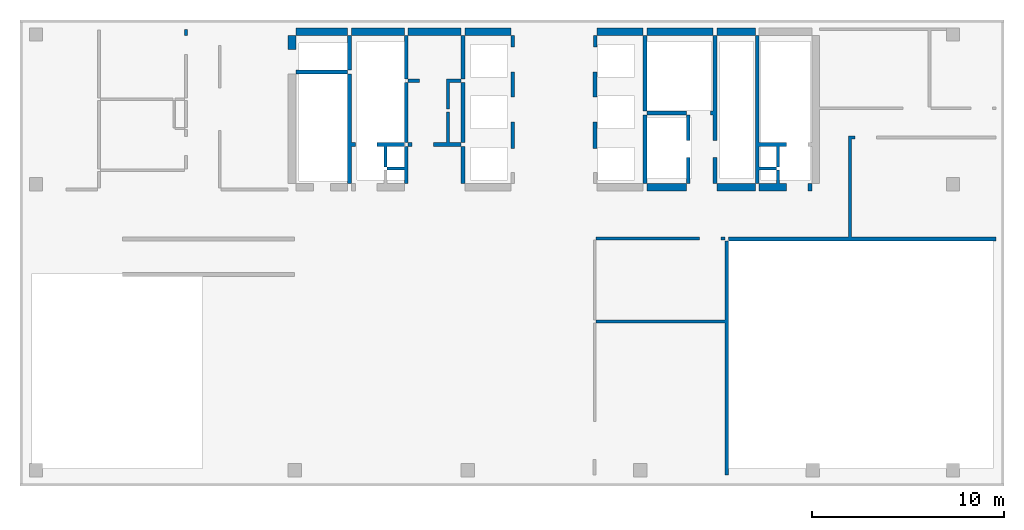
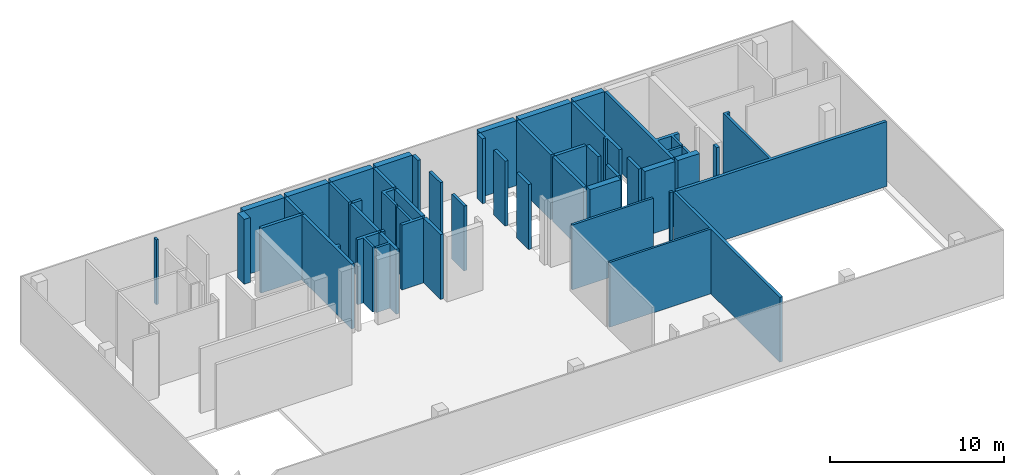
# One storey, part 2 of 4: 45 walls.
"""IFC4 building model written with IfcOpenShell, lengths in millimetres."""

from ifc_helpers import new_model, si_unit, frame, origin, place, context, project, spatial, triangles, element, save


model = new_model("IFC4")

# Units and contexts
model_context = context("Model", 3, precision=0.001, world=origin())
ifc_project = project(units=[si_unit("LENGTHUNIT", "METRE", prefix="MILLI"), si_unit("AREAUNIT", "SQUARE_METRE"), si_unit("VOLUMEUNIT", "CUBIC_METRE")], contexts=[model_context])

# Site, building, storey
site_placement = place(None, origin())
site = spatial("IfcSite", under=ifc_project, at=site_placement, Name="Site", CompositionType="ELEMENT")
building_placement = place(site_placement, origin())
building = spatial("IfcBuilding", under=site, at=building_placement, Name="INNOCEAN", CompositionType="ELEMENT")
storey_placement = place(building_placement, frame((0.0, 0.0, 20600.0)))
storey = spatial("IfcBuildingStorey", under=building, at=storey_placement, Name="F05", CompositionType="ELEMENT", Elevation=20600.0)

# Walls
wall_1_placement = place(storey_placement, origin())
element("IfcWall", 1, at=wall_1_placement, inside=storey, Name="F05_Walls_F05_010", context=model_context, shape_type="Tessellation", body=[
    triangles([(16429.3, 23019.0, 0.0), (16226.2, 23019.0, 0.0), (16226.2, 23019.0, 4550.0), (16429.3, 23019.0, 4550.0), (16429.3, 19449.9, 0.0), (16429.3, 19449.9, 4550.0), (16632.4, 19449.9, 0.0), (16632.4, 19449.9, 4550.0), (16632.4, 19246.7, 0.0), (16632.4, 19246.7, 4550.0), (16429.3, 19246.7, 0.0), (16429.3, 19246.7, 4550.0), (16429.3, 17316.1, 0.0), (16429.3, 17316.1, 4550.0), (16226.2, 17316.1, 0.0), (16226.2, 17316.1, 4550.0), (16226.2, 19246.7, 0.0), (16226.2, 19246.7, 4550.0), (16226.2, 19449.9, 0.0), (16226.2, 19449.9, 4550.0)], [[1, 2, 3], [1, 3, 4], [5, 1, 4], [5, 4, 6], [7, 5, 6], [7, 6, 8], [9, 7, 8], [9, 8, 10], [11, 9, 10], [11, 10, 12], [13, 11, 12], [13, 12, 14], [15, 13, 14], [15, 14, 16], [17, 15, 16], [17, 16, 18], [19, 17, 18], [19, 18, 20], [2, 19, 20], [2, 20, 3], [17, 11, 13], [17, 13, 15], [5, 7, 9], [5, 9, 11], [19, 5, 11], [19, 11, 17], [1, 5, 19], [2, 1, 19], [12, 18, 14], [14, 18, 16], [8, 6, 10], [10, 6, 12], [6, 20, 12], [12, 20, 18], [6, 4, 20], [4, 3, 20]], closed=True),
])
wall_2_placement = place(storey_placement, origin())
element("IfcWall", 2, at=wall_2_placement, inside=storey, Name="F05_Walls_F05_022", context=model_context, shape_type="Tessellation", body=[
    triangles([(16226.2, 23019.0, 0.0), (16226.2, 23222.2, 0.0), (16226.2, 23222.2, 4550.0), (16226.2, 23019.0, 4550.0), (13535.2, 23019.0, 0.0), (13535.2, 23019.0, 4550.0), (13535.2, 23222.2, 0.0), (13535.2, 23222.2, 4550.0)], [[1, 2, 3], [1, 3, 4], [5, 1, 4], [5, 4, 6], [7, 5, 6], [7, 6, 8], [2, 7, 8], [2, 8, 3], [7, 2, 1], [7, 1, 5], [3, 8, 4], [4, 8, 6]], closed=True),
])
wall_3_placement = place(storey_placement, origin())
element("IfcWall", 3, at=wall_3_placement, inside=storey, Name="F05_Walls_F05_025", context=model_context, shape_type="Tessellation", body=[
    triangles([(16429.3, 23222.2, 0.0), (16429.3, 25025.8, 0.0), (16429.3, 25025.8, 4550.0), (16429.3, 23222.2, 4550.0), (16226.2, 23222.2, 0.0), (16226.2, 23222.2, 4550.0), (16226.2, 25025.8, 0.0), (16226.2, 25025.8, 4550.0)], [[1, 2, 3], [1, 3, 4], [5, 1, 4], [5, 4, 6], [7, 5, 6], [7, 6, 8], [2, 7, 8], [2, 8, 3], [7, 2, 1], [7, 1, 5], [3, 8, 4], [4, 8, 6]], closed=True),
])
wall_4_placement = place(storey_placement, origin())
element("IfcWall", 4, at=wall_4_placement, inside=storey, Name="F05_Walls_F05_026", context=model_context, shape_type="Tessellation", body=[
    triangles([(13535.2, 24276.4, 0.0), (13535.2, 25025.8, 0.0), (13535.2, 25025.8, 4550.0), (13535.2, 24276.4, 4550.0), (13129.0, 24276.4, 0.0), (13129.0, 24276.4, 4550.0), (13129.0, 25025.8, 0.0), (13129.0, 25025.8, 4550.0)], [[1, 2, 3], [1, 3, 4], [5, 1, 4], [5, 4, 6], [7, 5, 6], [7, 6, 8], [2, 7, 8], [2, 8, 3], [2, 1, 5], [7, 2, 5], [4, 3, 6], [3, 8, 6]], closed=True),
])
wall_5_placement = place(storey_placement, origin())
element("IfcWall", 5, at=wall_5_placement, inside=storey, Name="F05_Walls_F05_027", context=model_context, shape_type="Tessellation", body=[
    triangles([(7734.4, 25317.9, 0.0), (7734.4, 25025.8, 0.0), (7734.4, 25025.8, 4550.0), (7734.4, 25317.9, 4550.0), (7735.0, 25317.9, 0.0), (7735.0, 25317.9, 4550.0), (7735.0, 25320.0, 0.0), (7735.0, 25320.0, 4550.0), (7885.0, 25320.0, 0.0), (7885.0, 25320.0, 4550.0), (7885.0, 25317.9, 0.0), (7885.0, 25317.9, 4550.0), (7886.7, 25317.9, 0.0), (7886.7, 25317.9, 4550.0), (7886.7, 25025.8, 0.0), (7886.7, 25025.8, 4550.0), (7885.0, 25025.8, 0.0), (7885.0, 25025.8, 4550.0), (7885.0, 25025.0, 0.0), (7885.0, 25025.0, 4550.0), (7735.0, 25025.0, 0.0), (7735.0, 25025.0, 4550.0), (7735.0, 25025.8, 0.0), (7735.0, 25025.8, 4550.0)], [[1, 2, 3], [1, 3, 4], [5, 1, 4], [5, 4, 6], [7, 5, 6], [7, 6, 8], [9, 7, 8], [9, 8, 10], [11, 9, 10], [11, 10, 12], [13, 11, 12], [13, 12, 14], [15, 13, 14], [15, 14, 16], [17, 15, 16], [17, 16, 18], [19, 17, 18], [19, 18, 20], [21, 19, 20], [21, 20, 22], [23, 21, 22], [23, 22, 24], [2, 23, 24], [2, 24, 3], [23, 17, 19], [23, 19, 21], [11, 13, 15], [11, 15, 17], [11, 17, 23], [5, 23, 2], [5, 11, 23], [1, 5, 2], [7, 9, 11], [7, 11, 5], [18, 24, 20], [20, 24, 22], [14, 12, 16], [16, 12, 18], [18, 12, 24], [24, 6, 3], [12, 6, 24], [6, 4, 3], [10, 8, 12], [12, 8, 6]], closed=True),
])
wall_6_placement = place(storey_placement, origin())
element("IfcWall", 6, at=wall_6_placement, inside=storey, Name="F05_Walls_F05_028", context=model_context, shape_type="Tessellation", body=[
    triangles([(16226.2, 25025.8, 0.0), (16226.2, 25419.5, 0.0), (16226.2, 25419.5, 4550.0), (16226.2, 25025.8, 4550.0), (13535.2, 25025.8, 0.0), (13535.2, 25025.8, 4550.0), (13535.2, 25419.5, 0.0), (13535.2, 25419.5, 4550.0)], [[1, 2, 3], [1, 3, 4], [5, 1, 4], [5, 4, 6], [7, 5, 6], [7, 6, 8], [2, 7, 8], [2, 8, 3], [5, 2, 1], [7, 2, 5], [3, 6, 4], [3, 8, 6]], closed=True),
])
wall_7_placement = place(storey_placement, origin())
element("IfcWall", 7, at=wall_7_placement, inside=storey, Name="F05_Walls_F05_034", context=model_context, shape_type="Tessellation", body=[
    triangles([(18282.5, 18014.7, 0.0), (19183.7, 18014.7, 0.0), (19183.7, 18014.7, 4550.0), (18282.5, 18014.7, 4550.0), (18282.5, 18167.1, 0.0), (18282.5, 18167.1, 4550.0), (19183.7, 18167.1, 0.0), (19183.7, 18167.1, 4550.0), (19183.7, 19246.7, 0.0), (19183.7, 19246.7, 4550.0), (19374.1, 19246.7, 4550.0), (19374.1, 19246.7, 0.0), (19374.1, 17316.1, 0.0), (19374.1, 17316.1, 4550.0), (19183.7, 17316.1, 4550.0), (19183.7, 17316.1, 0.0)], [[1, 2, 3], [1, 3, 4], [5, 1, 4], [5, 4, 6], [7, 5, 6], [7, 6, 8], [9, 7, 8], [9, 8, 10], [9, 10, 11], [12, 9, 11], [13, 12, 11], [13, 11, 14], [13, 14, 15], [16, 13, 15], [2, 16, 15], [2, 15, 3], [2, 13, 16], [7, 13, 2], [5, 2, 1], [5, 7, 2], [9, 12, 7], [12, 13, 7], [14, 3, 15], [14, 8, 3], [3, 6, 4], [8, 6, 3], [11, 10, 8], [14, 11, 8]], closed=True),
])
wall_8_placement = place(storey_placement, origin())
element("IfcWall", 8, at=wall_8_placement, inside=storey, Name="F05_Walls_F05_035", context=model_context, shape_type="Tessellation", body=[
    triangles([(22331.6, 17316.1, 0.0), (22331.6, 19246.7, 0.0), (22331.6, 19246.7, 4550.0), (22331.6, 17316.1, 4550.0), (22128.5, 17316.1, 0.0), (22128.5, 17316.1, 4550.0), (22128.5, 19246.7, 0.0), (22128.5, 19246.7, 4550.0)], [[1, 2, 3], [1, 3, 4], [5, 1, 4], [5, 4, 6], [7, 5, 6], [7, 6, 8], [2, 7, 8], [2, 8, 3], [7, 2, 1], [7, 1, 5], [3, 8, 4], [4, 8, 6]], closed=True),
])
wall_9_placement = place(storey_placement, origin())
element("IfcWall", 9, at=wall_9_placement, inside=storey, Name="F05_Walls_F05_036", context=model_context, shape_type="Tessellation", body=[
    triangles([(18282.5, 19246.7, 0.0), (19183.7, 19246.7, 0.0), (19183.7, 19246.7, 4550.0), (18282.5, 19246.7, 4550.0), (18282.5, 18167.1, 0.0), (18282.5, 18167.1, 4550.0), (18130.2, 18167.1, 0.0), (18130.2, 18167.1, 4550.0), (18130.2, 19246.7, 0.0), (18130.2, 19246.7, 4550.0), (17749.4, 19246.7, 0.0), (17749.4, 19246.7, 4550.0), (17749.4, 19449.9, 0.0), (17749.4, 19449.9, 4550.0), (19183.7, 19449.9, 0.0), (19183.7, 19449.9, 4550.0)], [[1, 2, 3], [1, 3, 4], [5, 1, 4], [5, 4, 6], [7, 5, 6], [7, 6, 8], [9, 7, 8], [9, 8, 10], [11, 9, 10], [11, 10, 12], [13, 11, 12], [13, 12, 14], [15, 13, 14], [15, 14, 16], [2, 15, 16], [2, 16, 3], [1, 15, 2], [9, 1, 5], [9, 5, 7], [13, 9, 11], [13, 1, 9], [13, 15, 1], [16, 4, 3], [4, 10, 6], [6, 10, 8], [10, 14, 12], [4, 14, 10], [16, 14, 4]], closed=True),
])
wall_10_placement = place(storey_placement, origin())
element("IfcWall", 10, at=wall_10_placement, inside=storey, Name="F05_Walls_F05_037", context=model_context, shape_type="Tessellation", body=[
    triangles([(19577.2, 19449.9, 0.0), (19374.1, 19449.9, 0.0), (19374.1, 19449.9, 4550.0), (19577.2, 19449.9, 4550.0), (19577.2, 19246.7, 0.0), (19577.2, 19246.7, 4550.0), (19374.1, 19246.7, 0.0), (19374.1, 19246.7, 4550.0)], [[1, 2, 3], [1, 3, 4], [5, 1, 4], [5, 4, 6], [7, 5, 6], [7, 6, 8], [2, 7, 8], [2, 8, 3], [2, 1, 5], [2, 5, 7], [4, 3, 6], [6, 3, 8]], closed=True),
])
wall_11_placement = place(storey_placement, origin())
element("IfcWall", 11, at=wall_11_placement, inside=storey, Name="F05_Walls_F05_038", context=model_context, shape_type="Tessellation", body=[
    triangles([(22128.5, 19246.7, 0.0), (22128.5, 19449.9, 0.0), (22128.5, 19449.9, 4550.0), (22128.5, 19246.7, 4550.0), (20694.2, 19246.7, 0.0), (20694.2, 19246.7, 4550.0), (20694.2, 19449.9, 0.0), (20694.2, 19449.9, 4550.0), (21366.9, 19449.9, 0.0), (21366.9, 19449.9, 4550.0), (21366.9, 21024.9, 0.0), (21366.9, 21024.9, 4550.0), (21519.3, 21024.9, 0.0), (21519.3, 21024.9, 4550.0), (21519.3, 19449.9, 0.0), (21519.3, 19449.9, 4550.0)], [[1, 2, 3], [1, 3, 4], [5, 1, 4], [5, 4, 6], [7, 5, 6], [7, 6, 8], [9, 7, 8], [9, 8, 10], [11, 9, 10], [11, 10, 12], [13, 11, 12], [13, 12, 14], [15, 13, 14], [15, 14, 16], [2, 15, 16], [2, 16, 3], [15, 2, 1], [9, 15, 1], [5, 9, 1], [7, 9, 5], [11, 13, 15], [11, 15, 9], [3, 16, 4], [16, 10, 4], [10, 6, 4], [10, 8, 6], [14, 12, 16], [16, 12, 10]], closed=True),
])
wall_12_placement = place(storey_placement, origin())
element("IfcWall", 12, at=wall_12_placement, inside=storey, Name="F05_Walls_F05_039", context=model_context, shape_type="Tessellation", body=[
    triangles([(24730.0, 19120.0, 0.0), (24730.0, 19120.0, 4550.0), (24730.0, 20515.0, 4550.0), (24730.0, 20515.0, 0.0), (24730.6, 20515.0, 0.0), (24730.6, 20515.0, 4550.0), (24730.6, 20516.8, 0.0), (24730.6, 20516.8, 4550.0), (24921.0, 20516.8, 4550.0), (24921.0, 20516.8, 0.0), (24921.0, 19119.7, 0.0), (24921.0, 19119.7, 4550.0), (24730.6, 19119.7, 4550.0), (24730.6, 19119.7, 0.0), (24730.6, 19120.0, 0.0), (24730.6, 19120.0, 4550.0)], [[1, 2, 3], [4, 1, 3], [5, 4, 3], [5, 3, 6], [7, 5, 6], [7, 6, 8], [7, 8, 9], [10, 7, 9], [11, 10, 9], [11, 9, 12], [11, 12, 13], [14, 11, 13], [15, 14, 13], [15, 13, 16], [1, 15, 16], [1, 16, 2], [15, 11, 14], [5, 10, 11], [5, 11, 15], [4, 15, 1], [4, 5, 15], [7, 10, 5], [12, 16, 13], [9, 6, 12], [12, 6, 16], [16, 3, 2], [6, 3, 16], [9, 8, 6]], closed=True),
])
wall_13_placement = place(storey_placement, origin())
element("IfcWall", 13, at=wall_13_placement, inside=storey, Name="F05_Walls_F05_040", context=model_context, shape_type="Tessellation", body=[
    triangles([(22331.6, 19449.9, 0.0), (22331.6, 22574.4, 0.0), (22331.6, 22574.4, 4550.0), (22331.6, 19449.9, 4550.0), (22128.5, 19449.9, 0.0), (22128.5, 19449.9, 4550.0), (22128.5, 22574.4, 0.0), (22128.5, 22574.4, 4550.0)], [[1, 2, 3], [1, 3, 4], [5, 1, 4], [5, 4, 6], [7, 5, 6], [7, 6, 8], [2, 7, 8], [2, 8, 3], [2, 1, 5], [7, 2, 5], [4, 3, 6], [3, 8, 6]], closed=True),
])
wall_14_placement = place(storey_placement, origin())
element("IfcWall", 14, at=wall_14_placement, inside=storey, Name="F05_Walls_F05_041", context=model_context, shape_type="Tessellation", body=[
    triangles([(19374.1, 19449.9, 0.0), (19374.1, 22574.4, 0.0), (19374.1, 22574.4, 4550.0), (19374.1, 19449.9, 4550.0), (19183.7, 19449.9, 4550.0), (19183.7, 19449.9, 0.0), (19183.7, 22574.4, 0.0), (19183.7, 22574.4, 4550.0)], [[1, 2, 3], [1, 3, 4], [1, 4, 5], [6, 1, 5], [7, 6, 5], [7, 5, 8], [7, 8, 3], [2, 7, 3], [2, 1, 6], [7, 2, 6], [4, 3, 5], [3, 8, 5]], closed=True),
])
wall_15_placement = place(storey_placement, origin())
element("IfcWall", 15, at=wall_15_placement, inside=storey, Name="F05_Walls_F05_042", context=model_context, shape_type="Tessellation", body=[
    triangles([(22128.5, 22765.0, 0.0), (21366.9, 22765.0, 0.0), (21366.9, 22765.0, 4550.0), (22128.5, 22765.0, 4550.0), (22128.5, 22574.4, 0.0), (22128.5, 22574.4, 4550.0), (21519.3, 22574.4, 0.0), (21519.3, 22574.4, 4550.0), (21519.3, 21177.3, 4550.0), (21519.3, 21177.3, 0.0), (21366.9, 21177.3, 0.0), (21366.9, 21177.3, 4550.0), (21366.9, 22574.4, 4550.0), (21366.9, 22574.4, 0.0)], [[1, 2, 3], [1, 3, 4], [5, 1, 4], [5, 4, 6], [7, 5, 6], [7, 6, 8], [7, 8, 9], [10, 7, 9], [11, 10, 9], [11, 9, 12], [11, 12, 13], [14, 11, 13], [2, 14, 13], [2, 13, 3], [7, 1, 5], [14, 7, 10], [14, 10, 11], [2, 1, 7], [2, 7, 14], [4, 8, 6], [8, 13, 9], [9, 13, 12], [4, 3, 8], [8, 3, 13]], closed=True),
])
wall_16_placement = place(storey_placement, origin())
element("IfcWall", 16, at=wall_16_placement, inside=storey, Name="F05_Walls_F05_043", context=model_context, shape_type="Tessellation", body=[
    triangles([(24920.0, 21825.0, 0.0), (24920.0, 21825.1, 0.0), (24920.0, 21825.1, 4550.0), (24920.0, 21825.0, 4550.0), (24730.0, 21825.0, 0.0), (24730.0, 21825.0, 4550.0), (24730.0, 23120.0, 0.0), (24730.0, 23120.0, 4550.0), (24730.6, 23120.0, 0.0), (24730.6, 23120.0, 4550.0), (24730.6, 23120.6, 0.0), (24730.6, 23120.6, 4550.0), (24921.0, 23120.6, 4550.0), (24921.0, 23120.6, 0.0), (24921.0, 21825.1, 0.0), (24921.0, 21825.1, 4550.0)], [[1, 2, 3], [1, 3, 4], [5, 1, 4], [5, 4, 6], [7, 5, 6], [7, 6, 8], [9, 7, 8], [9, 8, 10], [11, 9, 10], [11, 10, 12], [11, 12, 13], [14, 11, 13], [15, 14, 13], [15, 13, 16], [2, 15, 16], [2, 16, 3], [5, 2, 1], [14, 15, 2], [9, 14, 2], [9, 2, 5], [7, 9, 5], [11, 14, 9], [3, 6, 4], [16, 13, 3], [13, 10, 3], [3, 10, 6], [10, 8, 6], [13, 12, 10]], closed=True),
])
wall_17_placement = place(storey_placement, origin())
element("IfcWall", 17, at=wall_17_placement, inside=storey, Name="F05_Walls_F05_044", context=model_context, shape_type="Tessellation", body=[
    triangles([(19970.7, 22574.4, 0.0), (19970.7, 22765.0, 0.0), (19970.7, 22765.0, 4550.0), (19970.7, 22574.4, 4550.0), (19374.1, 22574.4, 0.0), (19374.1, 22574.4, 4550.0), (19374.1, 22765.0, 0.0), (19374.1, 22765.0, 4550.0)], [[1, 2, 3], [1, 3, 4], [5, 1, 4], [5, 4, 6], [7, 5, 6], [7, 6, 8], [2, 7, 8], [2, 8, 3], [7, 2, 1], [7, 1, 5], [3, 8, 4], [4, 8, 6]], closed=True),
])
wall_18_placement = place(storey_placement, origin())
element("IfcWall", 18, at=wall_18_placement, inside=storey, Name="F05_Walls_F05_045", context=model_context, shape_type="Tessellation", body=[
    triangles([(22331.6, 22765.0, 0.0), (22331.6, 25025.8, 0.0), (22331.6, 25025.8, 4550.0), (22331.6, 22765.0, 4550.0), (22128.5, 22765.0, 0.0), (22128.5, 22765.0, 4550.0), (22128.5, 25025.8, 0.0), (22128.5, 25025.8, 4550.0)], [[1, 2, 3], [1, 3, 4], [5, 1, 4], [5, 4, 6], [7, 5, 6], [7, 6, 8], [2, 7, 8], [2, 8, 3], [7, 2, 1], [7, 1, 5], [3, 8, 4], [4, 8, 6]], closed=True),
])
wall_19_placement = place(storey_placement, origin())
element("IfcWall", 19, at=wall_19_placement, inside=storey, Name="F05_Walls_F05_046", context=model_context, shape_type="Tessellation", body=[
    triangles([(19374.1, 22765.0, 0.0), (19374.1, 25025.8, 0.0), (19374.1, 25025.8, 4550.0), (19374.1, 22765.0, 4550.0), (19183.7, 22765.0, 4550.0), (19183.7, 22765.0, 0.0), (19183.7, 25025.8, 0.0), (19183.7, 25025.8, 4550.0)], [[1, 2, 3], [1, 3, 4], [1, 4, 5], [6, 1, 5], [7, 6, 5], [7, 5, 8], [7, 8, 3], [2, 7, 3], [7, 2, 1], [7, 1, 6], [3, 8, 4], [4, 8, 5]], closed=True),
])
wall_20_placement = place(storey_placement, origin())
element("IfcWall", 20, at=wall_20_placement, inside=storey, Name="F05_Walls_F05_047", context=model_context, shape_type="Tessellation", body=[
    triangles([(24921.0, 24416.1, 0.0), (24921.0, 25025.8, 0.0), (24921.0, 25025.8, 4550.0), (24921.0, 24416.1, 4550.0), (24730.6, 24416.1, 4550.0), (24730.6, 24416.1, 0.0), (24730.6, 25025.8, 0.0), (24730.6, 25025.8, 4550.0)], [[1, 2, 3], [1, 3, 4], [1, 4, 5], [6, 1, 5], [7, 6, 5], [7, 5, 8], [7, 8, 3], [2, 7, 3], [7, 2, 1], [7, 1, 6], [3, 8, 4], [4, 8, 5]], closed=True),
])
wall_21_placement = place(storey_placement, origin())
element("IfcWall", 21, at=wall_21_placement, inside=storey, Name="F05_Walls_F05_048", context=model_context, shape_type="Tessellation", body=[
    triangles([(22128.5, 25025.8, 0.0), (22128.5, 25419.5, 0.0), (22128.5, 25419.5, 4550.0), (22128.5, 25025.8, 4550.0), (19374.1, 25025.8, 0.0), (19374.1, 25025.8, 4550.0), (19374.1, 25419.5, 0.0), (19374.1, 25419.5, 4550.0)], [[1, 2, 3], [1, 3, 4], [5, 1, 4], [5, 4, 6], [7, 5, 6], [7, 6, 8], [2, 7, 8], [2, 8, 3], [7, 2, 1], [7, 1, 5], [3, 8, 4], [4, 8, 6]], closed=True),
])
wall_22_placement = place(storey_placement, origin())
element("IfcWall", 22, at=wall_22_placement, inside=storey, Name="F05_Walls_F05_049", context=model_context, shape_type="Tessellation", body=[
    triangles([(24730.6, 25025.8, 0.0), (24730.6, 25419.5, 0.0), (24730.6, 25419.5, 4550.0), (24730.6, 25025.8, 4550.0), (22331.6, 25025.8, 4550.0), (22331.6, 25025.8, 0.0), (22331.6, 25419.5, 0.0), (22331.6, 25419.5, 4550.0)], [[1, 2, 3], [1, 3, 4], [1, 4, 5], [6, 1, 5], [7, 6, 5], [7, 5, 8], [7, 8, 3], [2, 7, 3], [7, 2, 1], [7, 1, 6], [3, 8, 4], [4, 8, 5]], closed=True),
])
wall_23_placement = place(storey_placement, origin())
element("IfcWall", 23, at=wall_23_placement, inside=storey, Name="F05_Walls_F05_050", context=model_context, shape_type="Tessellation", body=[
    triangles([(19183.7, 25025.8, 0.0), (19183.7, 25419.5, 0.0), (19183.7, 25419.5, 4550.0), (19183.7, 25025.8, 4550.0), (16429.3, 25025.8, 0.0), (16429.3, 25025.8, 4550.0), (16429.3, 25419.5, 0.0), (16429.3, 25419.5, 4550.0)], [[1, 2, 3], [1, 3, 4], [5, 1, 4], [5, 4, 6], [7, 5, 6], [7, 6, 8], [2, 7, 8], [2, 8, 3], [7, 2, 1], [7, 1, 5], [3, 8, 4], [4, 8, 6]], closed=True),
])
wall_24_placement = place(storey_placement, origin())
element("IfcWall", 24, at=wall_24_placement, inside=storey, Name="F05_Walls_F05_052", context=model_context, shape_type="Tessellation", body=[
    triangles([(36065.7, 10190.7, 0.0), (36065.7, 14318.6, 0.0), (36065.7, 14318.6, 4550.0), (36065.7, 10190.7, 4550.0), (36065.7, 2125.4, 4550.0), (36065.7, 2125.4, 0.0), (35875.3, 2125.4, 0.0), (35875.3, 2125.4, 4550.0), (35875.3, 10051.0, 0.0), (35875.3, 10051.0, 4550.0), (29173.3, 10051.0, 0.0), (29173.3, 10051.0, 4550.0), (29173.3, 10190.7, 0.0), (29173.3, 10190.7, 4550.0), (35875.3, 10190.7, 0.0), (35875.3, 10190.7, 4550.0), (35875.3, 14318.6, 0.0), (35875.3, 14318.6, 4550.0)], [[1, 2, 3], [1, 3, 4], [5, 1, 4], [6, 1, 5], [7, 6, 5], [7, 5, 8], [9, 7, 8], [9, 8, 10], [11, 9, 10], [11, 10, 12], [13, 11, 12], [13, 12, 14], [15, 13, 14], [15, 14, 16], [17, 15, 16], [17, 16, 18], [2, 17, 18], [2, 18, 3], [9, 1, 6], [9, 6, 7], [15, 1, 9], [17, 2, 1], [17, 1, 15], [11, 15, 9], [13, 15, 11], [4, 10, 5], [5, 10, 8], [4, 16, 10], [3, 18, 4], [4, 18, 16], [16, 12, 10], [16, 14, 12]], closed=True),
])
wall_25_placement = place(storey_placement, origin())
element("IfcWall", 25, at=wall_25_placement, inside=storey, Name="F05_Walls_F05_053", context=model_context, shape_type="Tessellation", body=[
    triangles([(35672.2, 14370.0, 0.0), (35672.2, 14369.4, 0.0), (35672.2, 14369.4, 4550.0), (35672.2, 14370.0, 4550.0), (35670.0, 14370.0, 4550.0), (35670.0, 14370.0, 0.0), (35670.0, 14520.0, 0.0), (35670.0, 14520.0, 4550.0), (35672.2, 14520.0, 4550.0), (35672.2, 14520.0, 0.0), (35672.2, 14521.8, 0.0), (35672.2, 14521.8, 4550.0), (35875.3, 14521.8, 4550.0), (35875.3, 14521.8, 0.0), (35875.3, 14369.4, 4550.0), (35875.3, 14369.4, 0.0)], [[1, 2, 3], [1, 3, 4], [1, 4, 5], [6, 1, 5], [7, 6, 5], [7, 5, 8], [7, 8, 9], [10, 7, 9], [11, 10, 9], [11, 9, 12], [11, 12, 13], [14, 11, 13], [14, 13, 15], [16, 14, 15], [16, 15, 3], [2, 16, 3], [1, 16, 2], [10, 14, 16], [10, 16, 1], [11, 14, 10], [7, 1, 6], [7, 10, 1], [15, 4, 3], [13, 9, 15], [15, 9, 4], [13, 12, 9], [4, 8, 5], [9, 8, 4]], closed=True),
])
wall_26_placement = place(storey_placement, origin())
element("IfcWall", 26, at=wall_26_placement, inside=storey, Name="F05_Walls_F05_054", context=model_context, shape_type="Tessellation", body=[
    triangles([(34567.9, 14521.8, 0.0), (34567.9, 14521.8, 4550.0), (34567.9, 14369.4, 4550.0), (34567.9, 14369.4, 0.0), (29173.3, 14369.4, 0.0), (29173.3, 14369.4, 4550.0), (29173.3, 14521.8, 4550.0), (29173.3, 14521.8, 0.0)], [[1, 2, 3], [4, 1, 3], [5, 4, 3], [5, 3, 6], [5, 6, 7], [8, 5, 7], [1, 8, 7], [1, 7, 2], [8, 1, 4], [8, 4, 5], [2, 7, 3], [3, 7, 6]], closed=True),
])
wall_27_placement = place(storey_placement, origin())
element("IfcWall", 27, at=wall_27_placement, inside=storey, Name="F05_Walls_F05_056", context=model_context, shape_type="Tessellation", body=[
    triangles([(33869.8, 16922.4, 0.0), (33869.8, 17316.1, 0.0), (33869.8, 17316.1, 4550.0), (33869.8, 16922.4, 4550.0), (31826.2, 16922.4, 0.0), (31826.2, 16922.4, 4550.0), (31826.2, 17316.1, 0.0), (31826.2, 17316.1, 4550.0)], [[1, 2, 3], [1, 3, 4], [5, 1, 4], [5, 4, 6], [7, 5, 6], [7, 6, 8], [2, 7, 8], [2, 8, 3], [7, 2, 1], [7, 1, 5], [3, 8, 4], [4, 8, 6]], closed=True),
])
wall_28_placement = place(storey_placement, origin())
element("IfcWall", 28, at=wall_28_placement, inside=storey, Name="F05_Walls_F05_057", context=model_context, shape_type="Tessellation", body=[
    triangles([(37474.6, 16922.4, 0.0), (37474.6, 17316.1, 0.0), (37474.6, 17316.1, 4550.0), (37474.6, 16922.4, 4550.0), (35469.1, 16922.4, 4550.0), (35469.1, 16922.4, 0.0), (35469.1, 17316.1, 0.0), (35469.1, 17316.1, 4550.0)], [[1, 2, 3], [1, 3, 4], [1, 4, 5], [6, 1, 5], [7, 6, 5], [7, 5, 8], [7, 8, 3], [2, 7, 3], [7, 2, 1], [7, 1, 6], [3, 8, 4], [4, 8, 5]], closed=True),
])
wall_29_placement = place(storey_placement, origin())
element("IfcWall", 29, at=wall_29_placement, inside=storey, Name="F05_Walls_F05_059", context=model_context, shape_type="Tessellation", body=[
    triangles([(34072.9, 17316.1, 0.0), (34072.9, 18649.7, 0.0), (34072.9, 18649.7, 4550.0), (34072.9, 17316.1, 4550.0), (33869.8, 17316.1, 0.0), (33869.8, 17316.1, 4550.0), (33869.8, 18649.7, 0.0), (33869.8, 18649.7, 4550.0)], [[1, 2, 3], [1, 3, 4], [5, 1, 4], [5, 4, 6], [7, 5, 6], [7, 6, 8], [2, 7, 8], [2, 8, 3], [7, 2, 1], [7, 1, 5], [3, 8, 4], [4, 8, 6]], closed=True),
])
wall_30_placement = place(storey_placement, origin())
element("IfcWall", 30, at=wall_30_placement, inside=storey, Name="F05_Walls_F05_060", context=model_context, shape_type="Tessellation", body=[
    triangles([(35469.1, 17316.1, 0.0), (35469.1, 18649.7, 0.0), (35469.1, 18649.7, 4550.0), (35469.1, 17316.1, 4550.0), (35266.0, 17316.1, 0.0), (35266.0, 17316.1, 4550.0), (35266.0, 18649.7, 0.0), (35266.0, 18649.7, 4550.0)], [[1, 2, 3], [1, 3, 4], [5, 1, 4], [5, 4, 6], [7, 5, 6], [7, 6, 8], [2, 7, 8], [2, 8, 3], [7, 2, 1], [7, 1, 5], [3, 8, 4], [4, 8, 6]], closed=True),
])
wall_31_placement = place(storey_placement, origin())
element("IfcWall", 31, at=wall_31_placement, inside=storey, Name="F05_Walls_F05_061", context=model_context, shape_type="Tessellation", body=[
    triangles([(37474.6, 19449.9, 0.0), (37474.6, 17316.1, 0.0), (37474.6, 17316.1, 4550.0), (37474.6, 19449.9, 4550.0), (37665.0, 17316.1, 0.0), (37665.0, 17316.1, 4550.0), (37665.0, 18014.7, 0.0), (37665.0, 18014.7, 4550.0), (38566.3, 18014.7, 0.0), (38566.3, 18014.7, 4550.0), (38566.3, 18167.1, 0.0), (38566.3, 18167.1, 4550.0), (38718.6, 18167.1, 0.0), (38718.6, 18167.1, 4550.0), (38718.6, 19245.0, 0.0), (38718.6, 19245.0, 4550.0), (38720.0, 19245.0, 0.0), (38720.0, 19245.0, 4550.0), (39100.0, 19245.0, 0.0), (39100.0, 19245.0, 4550.0), (39100.0, 19450.0, 0.0), (39100.0, 19450.0, 4550.0), (37665.0, 19450.0, 0.0), (37665.0, 19450.0, 4550.0), (37665.0, 25025.8, 0.0), (37665.0, 25025.8, 4550.0), (37474.6, 25025.8, 0.0), (37474.6, 25025.8, 4550.0), (37665.0, 18167.1, 0.0), (37665.0, 18167.1, 4550.0), (37665.0, 19245.0, 0.0), (37665.0, 19245.0, 4550.0), (38565.0, 19245.0, 0.0), (38565.0, 19245.0, 4550.0), (38566.3, 19245.0, 0.0), (38566.3, 19245.0, 4550.0)], [[1, 2, 3], [1, 3, 4], [5, 6, 3], [2, 5, 3], [5, 7, 8], [5, 8, 6], [9, 10, 8], [7, 9, 8], [9, 11, 12], [9, 12, 10], [11, 13, 14], [11, 14, 12], [13, 15, 16], [13, 16, 14], [15, 17, 18], [15, 18, 16], [17, 19, 20], [17, 20, 18], [19, 21, 22], [19, 22, 20], [23, 24, 22], [21, 23, 22], [23, 25, 26], [23, 26, 24], [27, 28, 26], [25, 27, 26], [27, 1, 4], [27, 4, 28], [29, 30, 12], [11, 29, 12], [29, 31, 32], [29, 32, 30], [31, 33, 34], [31, 34, 32], [33, 35, 36], [33, 36, 34], [35, 11, 12], [35, 12, 36], [7, 5, 2], [29, 11, 9], [29, 9, 7], [29, 7, 2], [17, 21, 19], [15, 21, 17], [35, 15, 13], [35, 13, 11], [35, 21, 15], [33, 21, 35], [23, 33, 31], [23, 21, 33], [1, 31, 29], [1, 29, 2], [1, 23, 31], [27, 25, 23], [27, 23, 1], [6, 8, 3], [12, 30, 10], [10, 30, 8], [8, 30, 3], [22, 18, 20], [22, 16, 18], [16, 36, 14], [14, 36, 12], [22, 36, 16], [22, 34, 36], [34, 24, 32], [22, 24, 34], [32, 4, 30], [30, 4, 3], [24, 4, 32], [26, 28, 24], [24, 28, 4]], closed=True),
])
wall_32_placement = place(storey_placement, origin())
element("IfcWall", 32, at=wall_32_placement, inside=storey, Name="F05_Walls_F05_062", context=model_context, shape_type="Tessellation", body=[
    triangles([(31826.2, 20872.5, 0.0), (31826.2, 20872.5, 4550.0), (31826.2, 17316.1, 4550.0), (31826.2, 17316.1, 0.0), (31623.1, 17316.1, 0.0), (31623.1, 17316.1, 4550.0), (31623.1, 20872.5, 4550.0), (31623.1, 20872.5, 0.0)], [[1, 2, 3], [4, 1, 3], [5, 4, 3], [5, 3, 6], [5, 6, 7], [8, 5, 7], [1, 8, 7], [1, 7, 2], [8, 1, 4], [8, 4, 5], [2, 7, 3], [3, 7, 6]], closed=True),
])
wall_33_placement = place(storey_placement, origin())
element("IfcWall", 33, at=wall_33_placement, inside=storey, Name="F05_Walls_F05_063", context=model_context, shape_type="Tessellation", body=[
    triangles([(29224.0, 19119.7, 0.0), (29224.0, 19120.0, 0.0), (29224.0, 19120.0, 4550.0), (29224.0, 19119.7, 4550.0), (29020.9, 19119.7, 0.0), (29020.9, 19119.7, 4550.0), (29020.9, 19120.0, 0.0), (29020.9, 19120.0, 4550.0), (29020.0, 19120.0, 4550.0), (29020.0, 19120.0, 0.0), (29020.0, 20515.0, 4550.0), (29020.0, 20515.0, 0.0), (29020.9, 20515.0, 4550.0), (29020.9, 20515.0, 0.0), (29020.9, 20516.8, 0.0), (29020.9, 20516.8, 4550.0), (29224.0, 20516.8, 0.0), (29224.0, 20516.8, 4550.0), (29224.0, 20515.0, 0.0), (29224.0, 20515.0, 4550.0), (29225.0, 20515.0, 0.0), (29225.0, 20515.0, 4550.0), (29225.0, 19120.0, 4550.0), (29225.0, 19120.0, 0.0)], [[1, 2, 3], [1, 3, 4], [5, 1, 4], [5, 4, 6], [7, 5, 6], [7, 6, 8], [7, 8, 9], [10, 7, 9], [10, 9, 11], [12, 10, 11], [12, 11, 13], [14, 12, 13], [15, 14, 13], [15, 13, 16], [17, 15, 16], [17, 16, 18], [19, 17, 18], [19, 18, 20], [21, 19, 20], [21, 20, 22], [21, 22, 23], [24, 21, 23], [2, 24, 23], [2, 23, 3], [7, 2, 1], [7, 1, 5], [19, 21, 24], [19, 24, 2], [19, 2, 7], [14, 19, 7], [12, 7, 10], [12, 14, 7], [15, 17, 19], [15, 19, 14], [3, 8, 4], [4, 8, 6], [22, 20, 23], [23, 20, 3], [3, 20, 8], [20, 13, 8], [8, 11, 9], [13, 11, 8], [18, 16, 20], [20, 16, 13]], closed=True),
])
wall_34_placement = place(storey_placement, origin())
element("IfcWall", 34, at=wall_34_placement, inside=storey, Name="F05_Walls_F05_064", context=model_context, shape_type="Tessellation", body=[
    triangles([(34072.9, 19551.5, 0.0), (34072.9, 20872.5, 0.0), (34072.9, 20872.5, 4550.0), (34072.9, 19551.5, 4550.0), (33869.8, 19551.5, 0.0), (33869.8, 19551.5, 4550.0), (33869.8, 20872.5, 0.0), (33869.8, 20872.5, 4550.0)], [[1, 2, 3], [1, 3, 4], [5, 1, 4], [5, 4, 6], [7, 5, 6], [7, 6, 8], [2, 7, 8], [2, 8, 3], [7, 2, 1], [7, 1, 5], [3, 8, 4], [4, 8, 6]], closed=True),
])
wall_35_placement = place(storey_placement, origin())
element("IfcWall", 35, at=wall_35_placement, inside=storey, Name="F05_Walls_F05_065", context=model_context, shape_type="Tessellation", body=[
    triangles([(35126.4, 21075.7, 0.0), (35126.4, 20872.5, 0.0), (35126.4, 20872.5, 4550.0), (35126.4, 21075.7, 4550.0), (35266.0, 21075.7, 0.0), (35266.0, 21075.7, 4550.0), (35266.0, 25025.8, 0.0), (35266.0, 25025.8, 4550.0), (35469.1, 25025.8, 0.0), (35469.1, 25025.8, 4550.0), (35469.1, 21075.7, 0.0), (35469.1, 21075.7, 4550.0), (35469.1, 20872.5, 0.0), (35469.1, 20872.5, 4550.0), (35469.1, 19551.5, 0.0), (35469.1, 19551.5, 4550.0), (35266.0, 19551.5, 0.0), (35266.0, 19551.5, 4550.0), (35266.0, 20872.5, 0.0), (35266.0, 20872.5, 4550.0)], [[1, 2, 3], [1, 3, 4], [5, 1, 4], [5, 4, 6], [7, 5, 6], [7, 6, 8], [9, 7, 8], [9, 8, 10], [11, 9, 10], [11, 10, 12], [13, 11, 12], [13, 12, 14], [15, 13, 14], [15, 14, 16], [17, 15, 16], [17, 16, 18], [19, 17, 18], [19, 18, 20], [2, 19, 20], [2, 20, 3], [19, 13, 15], [19, 15, 17], [11, 13, 19], [5, 11, 19], [1, 19, 2], [1, 5, 19], [7, 9, 11], [7, 11, 5], [14, 20, 16], [16, 20, 18], [14, 12, 20], [12, 6, 20], [20, 4, 3], [6, 4, 20], [10, 8, 12], [12, 8, 6]], closed=True),
])
wall_36_placement = place(storey_placement, origin())
element("IfcWall", 36, at=wall_36_placement, inside=storey, Name="F05_Walls_F05_066", context=model_context, shape_type="Tessellation", body=[
    triangles([(33869.8, 20872.5, 0.0), (33869.8, 21075.7, 0.0), (33869.8, 21075.7, 4550.0), (33869.8, 20872.5, 4550.0), (31826.2, 20872.5, 0.0), (31826.2, 20872.5, 4550.0), (31826.2, 21075.7, 0.0), (31826.2, 21075.7, 4550.0)], [[1, 2, 3], [1, 3, 4], [5, 1, 4], [5, 4, 6], [7, 5, 6], [7, 6, 8], [2, 7, 8], [2, 8, 3], [7, 2, 1], [7, 1, 5], [3, 8, 4], [4, 8, 6]], closed=True),
])
wall_37_placement = place(storey_placement, origin())
element("IfcWall", 37, at=wall_37_placement, inside=storey, Name="F05_Walls_F05_067", context=model_context, shape_type="Tessellation", body=[
    triangles([(29225.0, 21825.0, 0.0), (29225.0, 23120.0, 0.0), (29225.0, 23120.0, 4550.0), (29225.0, 21825.0, 4550.0), (29020.0, 21825.0, 0.0), (29020.0, 21825.0, 4550.0), (29020.0, 23120.0, 0.0), (29020.0, 23120.0, 4550.0), (29020.9, 23120.0, 4550.0), (29020.9, 23120.0, 0.0), (29020.9, 23120.6, 0.0), (29020.9, 23120.6, 4550.0), (29224.0, 23120.6, 0.0), (29224.0, 23120.6, 4550.0), (29224.0, 23120.0, 0.0), (29224.0, 23120.0, 4550.0)], [[1, 2, 3], [1, 3, 4], [5, 1, 4], [5, 4, 6], [7, 5, 6], [7, 6, 8], [7, 8, 9], [10, 7, 9], [11, 10, 9], [11, 9, 12], [13, 11, 12], [13, 12, 14], [15, 13, 14], [15, 14, 16], [2, 15, 16], [2, 16, 3], [15, 2, 1], [15, 1, 5], [10, 15, 5], [11, 13, 15], [11, 15, 10], [7, 10, 5], [3, 16, 4], [4, 16, 6], [16, 9, 6], [14, 12, 16], [16, 12, 9], [9, 8, 6]], closed=True),
])
wall_38_placement = place(storey_placement, origin())
element("IfcWall", 38, at=wall_38_placement, inside=storey, Name="F05_Walls_F05_068", context=model_context, shape_type="Tessellation", body=[
    triangles([(31826.2, 21075.7, 0.0), (31826.2, 25025.8, 0.0), (31826.2, 25025.8, 4550.0), (31826.2, 21075.7, 4550.0), (31623.1, 21075.7, 0.0), (31623.1, 21075.7, 4550.0), (31623.1, 25025.8, 0.0), (31623.1, 25025.8, 4550.0)], [[1, 2, 3], [1, 3, 4], [5, 1, 4], [5, 4, 6], [7, 5, 6], [7, 6, 8], [2, 7, 8], [2, 8, 3], [2, 1, 5], [7, 2, 5], [4, 3, 6], [3, 8, 6]], closed=True),
])
wall_39_placement = place(storey_placement, origin())
element("IfcWall", 39, at=wall_39_placement, inside=storey, Name="F05_Walls_F05_069", context=model_context, shape_type="Tessellation", body=[
    triangles([(29224.0, 24416.1, 0.0), (29224.0, 25025.8, 0.0), (29224.0, 25025.8, 4550.0), (29224.0, 24416.1, 4550.0), (29020.9, 24416.1, 0.0), (29020.9, 24416.1, 4550.0), (29020.9, 25025.8, 0.0), (29020.9, 25025.8, 4550.0)], [[1, 2, 3], [1, 3, 4], [5, 1, 4], [5, 4, 6], [7, 5, 6], [7, 6, 8], [2, 7, 8], [2, 8, 3], [7, 2, 1], [7, 1, 5], [3, 8, 4], [4, 8, 6]], closed=True),
])
wall_40_placement = place(storey_placement, origin())
element("IfcWall", 40, at=wall_40_placement, inside=storey, Name="F05_Walls_F05_070", context=model_context, shape_type="Tessellation", body=[
    triangles([(31623.1, 25025.8, 0.0), (31623.1, 25419.5, 0.0), (31623.1, 25419.5, 4550.0), (31623.1, 25025.8, 4550.0), (29224.0, 25025.8, 0.0), (29224.0, 25025.8, 4550.0), (29224.0, 25419.5, 0.0), (29224.0, 25419.5, 4550.0)], [[1, 2, 3], [1, 3, 4], [5, 1, 4], [5, 4, 6], [7, 5, 6], [7, 6, 8], [2, 7, 8], [2, 8, 3], [7, 2, 1], [7, 1, 5], [3, 8, 4], [4, 8, 6]], closed=True),
])
wall_41_placement = place(storey_placement, origin())
element("IfcWall", 41, at=wall_41_placement, inside=storey, Name="F05_Walls_F05_071", context=model_context, shape_type="Tessellation", body=[
    triangles([(35266.0, 25025.8, 0.0), (35266.0, 25419.5, 0.0), (35266.0, 25419.5, 4550.0), (35266.0, 25025.8, 4550.0), (31826.2, 25025.8, 0.0), (31826.2, 25025.8, 4550.0), (31826.2, 25419.5, 0.0), (31826.2, 25419.5, 4550.0)], [[1, 2, 3], [1, 3, 4], [5, 1, 4], [5, 4, 6], [7, 5, 6], [7, 6, 8], [2, 7, 8], [2, 8, 3], [7, 2, 1], [7, 1, 5], [3, 8, 4], [4, 8, 6]], closed=True),
])
wall_42_placement = place(storey_placement, origin())
element("IfcWall", 42, at=wall_42_placement, inside=storey, Name="F05_Walls_F05_072", context=model_context, shape_type="Tessellation", body=[
    triangles([(37474.6, 25025.8, 0.0), (37474.6, 25419.5, 0.0), (37474.6, 25419.5, 4550.0), (37474.6, 25025.8, 4550.0), (35469.1, 25025.8, 4550.0), (35469.1, 25025.8, 0.0), (35469.1, 25419.5, 0.0), (35469.1, 25419.5, 4550.0)], [[1, 2, 3], [1, 3, 4], [1, 4, 5], [6, 1, 5], [7, 6, 5], [7, 5, 8], [7, 8, 3], [2, 7, 3], [7, 2, 1], [7, 1, 6], [3, 8, 4], [4, 8, 5]], closed=True),
])
wall_43_placement = place(storey_placement, origin())
element("IfcWall", 43, at=wall_43_placement, inside=storey, Name="F05_Walls_F05_073", context=model_context, shape_type="Tessellation", body=[
    triangles([(42666.2, 19615.0, 0.0), (42666.2, 19767.5, 0.0), (42666.2, 19767.5, 4550.0), (42666.2, 19615.0, 4550.0), (42665.0, 19615.0, 4550.0), (42665.0, 19615.0, 0.0), (42465.0, 19615.0, 4550.0), (42465.0, 19615.0, 0.0), (42465.0, 14521.8, 4550.0), (42465.0, 14521.8, 0.0), (50015.5, 14521.8, 4550.0), (50015.5, 14521.8, 0.0), (50015.5, 14318.6, 0.0), (50015.5, 14318.6, 4550.0), (36065.7, 14318.6, 4550.0), (36065.7, 14318.6, 0.0), (36065.7, 14521.8, 0.0), (36065.7, 14521.8, 4550.0), (42310.0, 14521.8, 0.0), (42310.0, 14521.8, 4550.0), (42310.0, 19770.0, 0.0), (42310.0, 19770.0, 4550.0), (42665.0, 19770.0, 0.0), (42665.0, 19770.0, 4550.0), (42665.0, 19767.5, 0.0), (42665.0, 19767.5, 4550.0)], [[1, 2, 3], [1, 3, 4], [1, 4, 5], [6, 1, 5], [6, 5, 7], [8, 6, 7], [9, 8, 7], [10, 8, 9], [11, 10, 9], [12, 10, 11], [13, 12, 11], [13, 11, 14], [15, 13, 14], [16, 13, 15], [17, 16, 15], [17, 15, 18], [19, 17, 18], [19, 18, 20], [21, 19, 20], [21, 20, 22], [23, 21, 22], [23, 22, 24], [25, 23, 24], [25, 24, 26], [25, 26, 3], [2, 25, 3], [10, 12, 13], [25, 2, 1], [25, 1, 6], [8, 23, 25], [8, 10, 19], [8, 25, 6], [21, 23, 8], [21, 8, 19], [17, 19, 16], [13, 16, 19], [13, 19, 10], [11, 9, 14], [3, 26, 4], [4, 26, 5], [24, 7, 26], [9, 7, 20], [26, 7, 5], [24, 22, 7], [7, 22, 20], [20, 18, 15], [15, 14, 20], [20, 14, 9]], closed=True),
])
wall_44_placement = place(storey_placement, origin())
element("IfcWall", 44, at=wall_44_placement, inside=storey, Name="F05_Walls_F05_074", context=model_context, shape_type="Tessellation", body=[
    triangles([(38566.3, 18014.7, 0.0), (38566.3, 17316.1, 0.0), (38566.3, 17316.1, 4550.0), (38566.3, 18014.7, 4550.0), (38718.6, 18014.7, 0.0), (38718.6, 18014.7, 4550.0), (38718.6, 17316.1, 0.0), (38718.6, 17316.1, 4550.0), (39099.4, 17316.1, 0.0), (39099.4, 17316.1, 4550.0), (39099.4, 16922.4, 0.0), (39099.4, 16922.4, 4550.0), (37665.0, 16922.4, 0.0), (37665.0, 16922.4, 4550.0), (37665.0, 17316.1, 0.0), (37665.0, 17316.1, 4550.0)], [[1, 2, 3], [1, 3, 4], [5, 1, 4], [5, 4, 6], [7, 5, 6], [7, 6, 8], [9, 7, 8], [9, 8, 10], [11, 9, 10], [11, 10, 12], [13, 11, 12], [13, 12, 14], [15, 13, 14], [15, 14, 16], [15, 16, 3], [2, 15, 3], [7, 9, 11], [2, 7, 11], [13, 2, 11], [1, 5, 7], [1, 7, 2], [15, 2, 13], [10, 8, 12], [8, 3, 12], [3, 14, 12], [6, 4, 8], [8, 4, 3], [3, 16, 14]], closed=True),
])
wall_45_placement = place(storey_placement, origin())
element("IfcWall", 45, at=wall_45_placement, inside=storey, Name="F05_Walls_F05_075", context=model_context, shape_type="Tessellation", body=[
    triangles([(40419.5, 16922.4, 0.0), (40419.5, 17316.1, 0.0), (40419.5, 17316.1, 4550.0), (40419.5, 16922.4, 4550.0), (40216.4, 16922.4, 0.0), (40216.4, 16922.4, 4550.0), (40216.4, 17316.1, 0.0), (40216.4, 17316.1, 4550.0)], [[1, 2, 3], [1, 3, 4], [5, 1, 4], [5, 4, 6], [7, 5, 6], [7, 6, 8], [2, 7, 8], [2, 8, 3], [7, 2, 1], [7, 1, 5], [3, 8, 4], [4, 8, 6]], closed=True),
])

save(model, "model.ifc")
